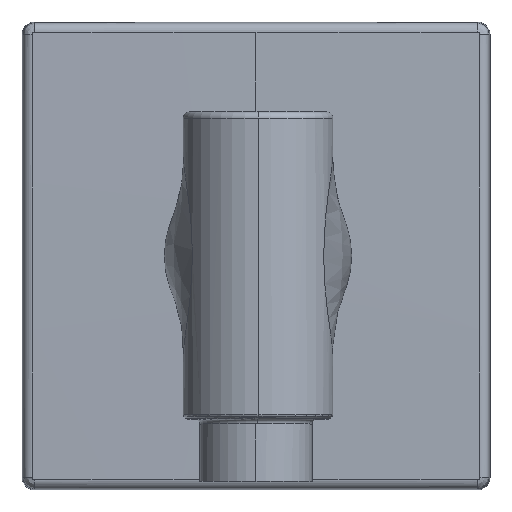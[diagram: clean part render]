
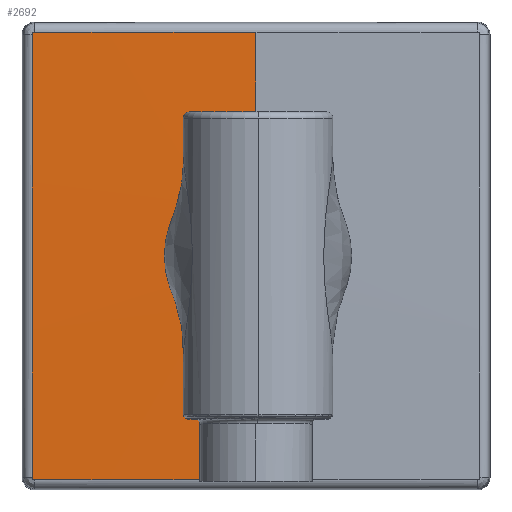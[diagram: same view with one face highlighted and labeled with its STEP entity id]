
A CAD part, top view. The second image highlights one B-rep face of the part: STEP entity #2692.
In plain terms, the highlighted spherical face has radius 2756.5 mm.
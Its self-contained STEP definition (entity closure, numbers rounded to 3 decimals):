
#64 = DIRECTION ( 'NONE',  ( 1., 0., 0. ) ) ;
#111 = VERTEX_POINT ( 'NONE', #878 ) ;
#183 = CIRCLE ( 'NONE', #2325, 2755.222 ) ;
#204 = CARTESIAN_POINT ( 'NONE',  ( 0., 300., -2744.4 ) ) ;
#246 = DIRECTION ( 'NONE',  ( 1., 0., 0. ) ) ;
#267 = VERTEX_POINT ( 'NONE', #3399 ) ;
#292 = DIRECTION ( 'NONE',  ( 0., 0., 1. ) ) ;
#320 = CARTESIAN_POINT ( 'NONE',  ( 0., 216.083, -2742.935 ) ) ;
#357 = DIRECTION ( 'NONE',  ( 0., -1., 0.017 ) ) ;
#371 = VERTEX_POINT ( 'NONE', #2795 ) ;
#375 = ORIENTED_EDGE ( 'NONE', *, *, #454, .T. ) ;
#400 = CIRCLE ( 'NONE', #2299, 2756.5 ) ;
#441 = AXIS2_PLACEMENT_3D ( 'NONE', #2233, #2525, #246 ) ;
#448 = DIRECTION ( 'NONE',  ( -1., 0., 0.017 ) ) ;
#454 = EDGE_CURVE ( 'NONE', #1145, #733, #1959, .T. ) ;
#460 = CARTESIAN_POINT ( 'NONE',  ( -35.52, 335.835, 11.638 ) ) ;
#479 = ORIENTED_EDGE ( 'NONE', *, *, #3050, .T. ) ;
#482 = EDGE_CURVE ( 'NONE', #111, #371, #2049, .T. ) ;
#486 = DIRECTION ( 'NONE',  ( 0.017, -0.013, 1. ) ) ;
#548 = CARTESIAN_POINT ( 'NONE',  ( -35.638, 335.843, 11.629 ) ) ;
#616 = DIRECTION ( 'NONE',  ( 1., 0., 0. ) ) ;
#704 = ORIENTED_EDGE ( 'NONE', *, *, #879, .F. ) ;
#718 = CARTESIAN_POINT ( 'NONE',  ( -35.742, 264.203, 11.633 ) ) ;
#733 = VERTEX_POINT ( 'NONE', #1380 ) ;
#754 = CARTESIAN_POINT ( 'NONE',  ( -35.835, 335.52, 11.638 ) ) ;
#794 = CARTESIAN_POINT ( 'NONE',  ( -35.52, 335.835, 11.638 ) ) ;
#801 = CARTESIAN_POINT ( 'NONE',  ( 0., 335.831, 11.867 ) ) ;
#878 = CARTESIAN_POINT ( 'NONE',  ( 0., 264.169, 11.867 ) ) ;
#879 = EDGE_CURVE ( 'NONE', #3265, #2882, #1471, .T. ) ;
#927 = AXIS2_PLACEMENT_3D ( 'NONE', #3525, #448, #486 ) ;
#992 = CARTESIAN_POINT ( 'NONE',  ( -35.775, 264.233, 11.632 ) ) ;
#1025 = ORIENTED_EDGE ( 'NONE', *, *, #2519, .F. ) ;
#1027 = ORIENTED_EDGE ( 'NONE', *, *, #3146, .T. ) ;
#1102 = CARTESIAN_POINT ( 'NONE',  ( -35.767, 335.775, 11.632 ) ) ;
#1115 = ORIENTED_EDGE ( 'NONE', *, *, #3226, .F. ) ;
#1127 = AXIS2_PLACEMENT_3D ( 'NONE', #320, #357, #1207 ) ;
#1145 = VERTEX_POINT ( 'NONE', #1324 ) ;
#1179 = DIRECTION ( 'NONE',  ( 0., 1., 0.017 ) ) ;
#1207 = DIRECTION ( 'NONE',  ( 0., 0.017, 1. ) ) ;
#1217 = DIRECTION ( 'NONE',  ( 0., 1., 0. ) ) ;
#1240 = CIRCLE ( 'NONE', #441, 13.367 ) ;
#1284 = CARTESIAN_POINT ( 'NONE',  ( -35.843, 264.362, 11.629 ) ) ;
#1324 = CARTESIAN_POINT ( 'NONE',  ( 0., 286.633, 12.068 ) ) ;
#1380 = CARTESIAN_POINT ( 'NONE',  ( -0.126, 286.634, 12.068 ) ) ;
#1471 = CIRCLE ( 'NONE', #927, 2755.222 ) ;
#1518 = CARTESIAN_POINT ( 'NONE',  ( -35.64, 264.14, 11.636 ) ) ;
#1601 = ORIENTED_EDGE ( 'NONE', *, *, #2864, .F. ) ;
#1620 = VERTEX_POINT ( 'NONE', #460 ) ;
#1708 = ORIENTED_EDGE ( 'NONE', *, *, #2173, .F. ) ;
#1959 = CIRCLE ( 'NONE', #3066, 13.367 ) ;
#2049 = CIRCLE ( 'NONE', #1127, 2755.222 ) ;
#2079 = CIRCLE ( 'NONE', #2974, 2756.5 ) ;
#2173 = EDGE_CURVE ( 'NONE', #371, #3265, #3232, .T. ) ;
#2195 = CARTESIAN_POINT ( 'NONE',  ( -35.797, 335.742, 11.633 ) ) ;
#2233 = CARTESIAN_POINT ( 'NONE',  ( 0., 300., 12.068 ) ) ;
#2299 = AXIS2_PLACEMENT_3D ( 'NONE', #204, #2509, #292 ) ;
#2303 = CARTESIAN_POINT ( 'NONE',  ( 0., 300., 12.068 ) ) ;
#2325 = AXIS2_PLACEMENT_3D ( 'NONE', #2580, #1179, #3132 ) ;
#2393 = CARTESIAN_POINT ( 'NONE',  ( -35.52, 264.165, 11.638 ) ) ;
#2455 = EDGE_LOOP ( 'NONE', ( #1601, #375, #1027, #479, #1115, #1025, #704, #1708, #2523 ) ) ;
#2509 = DIRECTION ( 'NONE',  ( -1., 0., 0. ) ) ;
#2519 = EDGE_CURVE ( 'NONE', #2882, #1620, #3291, .T. ) ;
#2523 = ORIENTED_EDGE ( 'NONE', *, *, #482, .F. ) ;
#2525 = DIRECTION ( 'NONE',  ( 0., 0., -1. ) ) ;
#2580 = CARTESIAN_POINT ( 'NONE',  ( 0., 383.917, -2742.935 ) ) ;
#2629 = CARTESIAN_POINT ( 'NONE',  ( -35.566, 264.141, 11.637 ) ) ;
#2692 = ADVANCED_FACE ( 'NONE', ( #3075 ), #2730, .T. ) ;
#2713 = CARTESIAN_POINT ( 'NONE',  ( -35.835, 335.52, 11.638 ) ) ;
#2730 = SPHERICAL_SURFACE ( 'NONE', #2738, 2756.5 ) ;
#2738 = AXIS2_PLACEMENT_3D ( 'NONE', #3436, #64, #1217 ) ;
#2794 = CARTESIAN_POINT ( 'NONE',  ( -35.86, 335.64, 11.636 ) ) ;
#2795 = CARTESIAN_POINT ( 'NONE',  ( -35.52, 264.165, 11.638 ) ) ;
#2864 = EDGE_CURVE ( 'NONE', #1145, #111, #2079, .T. ) ;
#2872 = DIRECTION ( 'NONE',  ( 0., 0., -1. ) ) ;
#2882 = VERTEX_POINT ( 'NONE', #2713 ) ;
#2974 = AXIS2_PLACEMENT_3D ( 'NONE', #3017, #3298, #3577 ) ;
#3017 = CARTESIAN_POINT ( 'NONE',  ( 0., 300., -2744.4 ) ) ;
#3021 = CARTESIAN_POINT ( 'NONE',  ( -35.859, 335.566, 11.637 ) ) ;
#3050 = EDGE_CURVE ( 'NONE', #267, #3567, #400, .T. ) ;
#3066 = AXIS2_PLACEMENT_3D ( 'NONE', #2303, #2872, #616 ) ;
#3075 = FACE_OUTER_BOUND ( 'NONE', #2455, .T. ) ;
#3132 = DIRECTION ( 'NONE',  ( -0.013, -0.017, 1. ) ) ;
#3146 = EDGE_CURVE ( 'NONE', #733, #267, #1240, .T. ) ;
#3226 = EDGE_CURVE ( 'NONE', #1620, #3567, #183, .T. ) ;
#3227 = CARTESIAN_POINT ( 'NONE',  ( -35.825, 264.313, 11.63 ) ) ;
#3232 = B_SPLINE_CURVE_WITH_KNOTS ( 'NONE', 3,
 ( #2393, #2629, #1518, #718, #992, #3227, #1284, #3236 ),
 .UNSPECIFIED., .F., .F.,
 ( 4, 2, 2, 4 ),
 ( 0., 0.5, 0.75, 1. ),
 .UNSPECIFIED. ) ;
#3236 = CARTESIAN_POINT ( 'NONE',  ( -35.835, 264.48, 11.638 ) ) ;
#3265 = VERTEX_POINT ( 'NONE', #3455 ) ;
#3290 = CARTESIAN_POINT ( 'NONE',  ( -35.687, 335.825, 11.63 ) ) ;
#3291 = B_SPLINE_CURVE_WITH_KNOTS ( 'NONE', 3,
 ( #754, #3021, #2794, #2195, #1102, #3290, #548, #794 ),
 .UNSPECIFIED., .F., .F.,
 ( 4, 2, 2, 4 ),
 ( 0., 0.5, 0.75, 1. ),
 .UNSPECIFIED. ) ;
#3298 = DIRECTION ( 'NONE',  ( 1., 0., 0. ) ) ;
#3399 = CARTESIAN_POINT ( 'NONE',  ( 0., 313.367, 12.068 ) ) ;
#3436 = CARTESIAN_POINT ( 'NONE',  ( 0., 300., -2744.4 ) ) ;
#3455 = CARTESIAN_POINT ( 'NONE',  ( -35.835, 264.48, 11.638 ) ) ;
#3525 = CARTESIAN_POINT ( 'NONE',  ( -83.917, 300., -2742.935 ) ) ;
#3567 = VERTEX_POINT ( 'NONE', #801 ) ;
#3577 = DIRECTION ( 'NONE',  ( 0., 0., -1. ) ) ;
